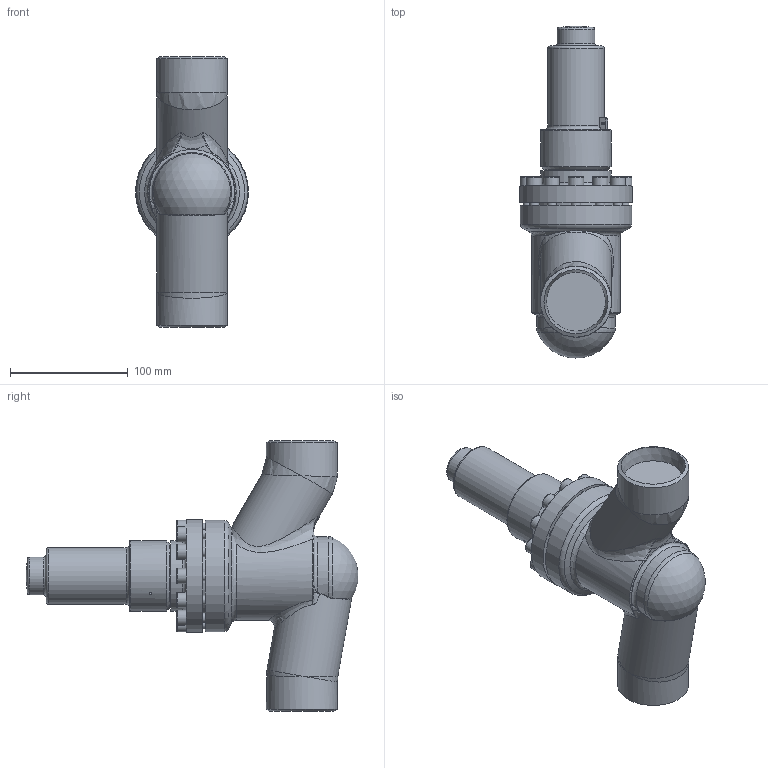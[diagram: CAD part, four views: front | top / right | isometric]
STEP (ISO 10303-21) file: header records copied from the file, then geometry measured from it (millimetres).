
FILE_DESCRIPTION((''),'2;1');
FILE_NAME('Y:\Home\AWP_CAD (2D+3D-Ansicht)\CAD Drawings\3D_STEP\AVR D AE\AVR D AE 26G00-050 PS63.stp','2012-08-27T10:29:55',('Lempe.Ha'),(''),'Autodesk Inventor 2012','Autodesk Inventor 2012','');
FILE_SCHEMA(('AUTOMOTIVE_DESIGN { 1 0 10303 214 1 1 1 1 }'));
Length unit declared in the file: millimetre
Products named in the file (5): 26G00F15A5A30000; 16G00K15.5034004; 26300K15.5141004; 16402.15.3180003; DIN 912 - ersetzt durch DIN EN ISO 4762 M8 x 25
Assembly tree (15 placements, depth 2):
  26G00F15A5A30000
    16G00K15.5034004
    26300K15.5141004
    16402.15.3180003
    DIN 912 - ersetzt durch DIN EN ISO 4762 M8 x 25  x12
Bounding box: 96 x 282.16 x 230 mm (x, y, z)
Volume: 971988.4 mm3; surface area: 197491.4 mm2
Topology: 15 solids, 15 shells, 377 faces, 846 edges, 513 vertices
Faces by surface type: plane 142, cylinder 88, cone 61, torus 44, bspline 39, sphere 3
Full cylindrical faces by diameter (mm): 2 x1, 6.647 x12, 8 x12, 9 x12, 13 x12, 20.5 x1, 22 x1, 27 x1, 31 x1, 32 x1, 34 x1, 38 x2, 44 x1, 48 x2, 48.752 x1, 49.5 x1, 51 x1, 51.1 x1, 52 x1, 52.5 x2, 55 x1, 56 x1, 60 x2, 60.3 x4, 62 x3, 65 x1, 70 x2, 95 x1, 96 x1
Entity records: 6743 total; most frequent: CARTESIAN_POINT 2455, DIRECTION 878, ORIENTED_EDGE 664, AXIS2_PLACEMENT_3D 425, EDGE_LOOP 374, EDGE_CURVE 332, VERTEX_POINT 255, CIRCLE 220
